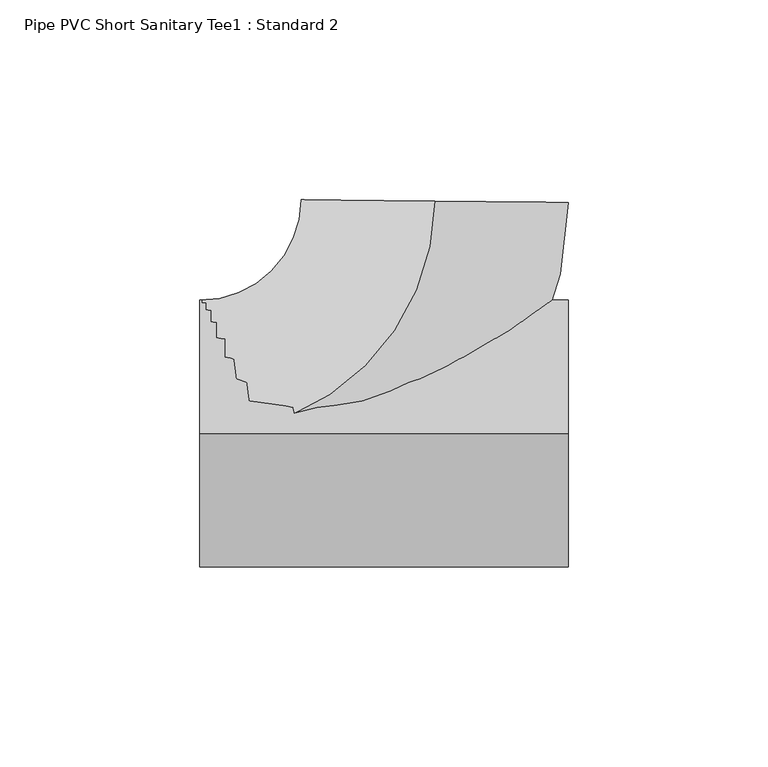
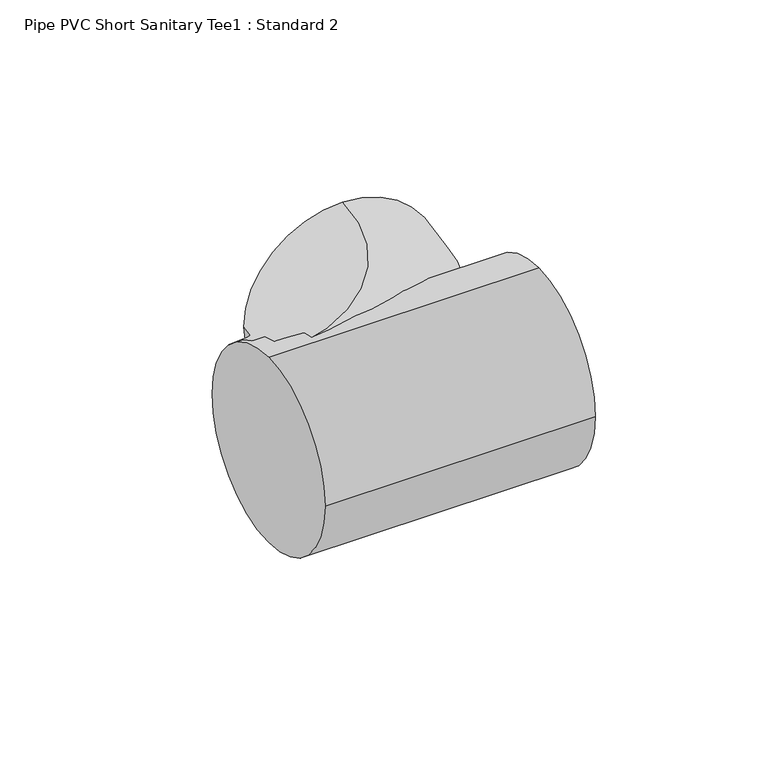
"""IFC4 building model written with IfcOpenShell, lengths in millimetres: pipe fitting geometry, Pipe PVC Short Sanitary Tee1 : Standard 2."""

from ifc_helpers import new_model, si_unit, point, frame, origin, origin_2d, place, context, project, spatial, circle_curve, ellipse_curve, trimmed, segment, composite_curve, outline, extrude, source, transform, mapped, element, save
from ifc_brep_helpers import plane_surface, revolved_surface, advanced_brep


def pipe_pvc_short_sanitary_tee1_standard_2_dea4ea5f(model_context):
    return source(origin(), model_context, "Body", "SolidModel", [
        extrude(outline(composite_curve([segment(trimmed(circle_curve(origin_2d(), 33.3375), [point((0.0, 33.3375))], [point((33.3375, 0.0))], False, "CARTESIAN"), True, "CONTINUOUS"), segment(trimmed(circle_curve(origin_2d(), 33.3375), [point((33.3375, 0.0))], [point((0.0, -33.3375))], False, "CARTESIAN"), True, "CONTINUOUS"), segment(trimmed(circle_curve(origin_2d(), 33.3375), [point((0.0, -33.3375))], [point((-33.3375, 0.0))], False, "CARTESIAN"), True, "CONTINUOUS"), segment(trimmed(circle_curve(origin_2d(), 33.3375), [point((-33.3375, 0.0))], [point((0.0, 33.3375))], False, "CARTESIAN"), True, "CONTINUOUS")], self_intersect=False)), frame((-58.1290126, 0.0, 0.0), z_axis=(1.0, 0.0, 0.0), x_axis=(0.0, 1.0, 0.0)), (0.0, 0.0, 1.0), 92.0718154),
        advanced_brep(
        [(-58.1290126, 0.0, 33.3375), (-58.1290126, 33.3375, 0.0), (-58.1290126, 0.0, -33.3375), (-58.1290126, -33.3375, 0.0), (0.6053028, 58.125861, 33.3375), (33.9409953, 57.7787146, 0.0), (0.6053028, 58.125861, -33.3375), (-32.7303898, 58.4730075, 0.0)],
        [
            (0, 1, circle_curve(frame((-58.1290126, 0.0, 0.0), z_axis=(-1.0, 0.0, 0.0), x_axis=(0.0, 1.0, 0.0)), 33.3375)),
            (1, 2, circle_curve(frame((-58.1290126, 0.0, 0.0), z_axis=(-1.0, 0.0, 0.0), x_axis=(0.0, 1.0, 0.0)), 33.3375)),
            (2, 3, circle_curve(frame((-58.1290126, 0.0, 0.0), z_axis=(-1.0, 0.0, 0.0), x_axis=(0.0, 1.0, 0.0)), 33.3375)),
            (3, 0, circle_curve(frame((-58.1290126, 0.0, 0.0), z_axis=(-1.0, 0.0, 0.0), x_axis=(0.0, 1.0, 0.0)), 33.3375)),
            (4, 5, circle_curve(frame((0.6053028, 58.125861, 0.0), z_axis=(0.010413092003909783, 0.9999457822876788, 0.0), x_axis=(-0.9999457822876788, 0.010413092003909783, 0.0)), 33.3375)),
            (5, 6, circle_curve(frame((0.6053028, 58.125861, 0.0), z_axis=(0.010413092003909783, 0.9999457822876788, 0.0), x_axis=(-0.9999457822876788, 0.010413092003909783, 0.0)), 33.3375)),
            (6, 7, circle_curve(frame((0.6053028, 58.125861, 0.0), z_axis=(0.010413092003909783, 0.9999457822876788, 0.0), x_axis=(-0.9999457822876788, 0.010413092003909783, 0.0)), 33.3375)),
            (7, 4, circle_curve(frame((0.6053028, 58.125861, 0.0), z_axis=(0.010413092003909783, 0.9999457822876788, 0.0), x_axis=(-0.9999457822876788, 0.010413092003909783, 0.0)), 33.3375)),
            (7, 1, circle_curve(frame((-58.1290126, 58.7375, 0.0), z_axis=(0.0, 0.0, -1.0), x_axis=(0.0, -1.0, 0.0)), 25.4)),
            (0, 4, circle_curve(frame((-58.1290126, 58.7375, 33.3375), z_axis=(0.0, 0.0, 1.0), x_axis=(0.0, -1.0, 0.0)), 58.7375)),
            (6, 2, circle_curve(frame((-58.1290126, 58.7375, -33.3375), z_axis=(0.0, 0.0, -1.0), x_axis=(0.0, -1.0, 0.0)), 58.7375)),
            (5, 3, circle_curve(frame((-58.1290126, 58.7375, 0.0), z_axis=(0.0, 0.0, -1.0), x_axis=(0.0, -1.0, 0.0)), 92.075)),
        ],
        [
            plane_surface(frame((-58.1290126, 0.0, 0.0), z_axis=(-1.0, 0.0, 0.0), x_axis=(0.0, 0.0, 1.0))),
            plane_surface(frame((0.6053028, 58.125861, 0.0), z_axis=(0.010413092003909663, 0.9999457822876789, 0.0), x_axis=(0.0, 0.0, 1.0))),
            revolved_surface(trimmed(ellipse_curve(frame((-58.1290126, 0.0, 0.0), z_axis=(-1.0, 0.0, 0.0), x_axis=(0.0, 1.0, 0.0)), 33.3375, 33.3375), [point((-58.1290126, 0.0, 33.3375))], [point((-58.1290126, 33.3375, 0.0))], True, "CARTESIAN"), (-58.1290126, 58.7375, 0.0), (0.0, 0.0, 1.0)),
            revolved_surface(trimmed(ellipse_curve(frame((-58.1290126, 0.0, 0.0), z_axis=(-1.0, 0.0, 0.0), x_axis=(0.0, 1.0, 0.0)), 33.3375, 33.3375), [point((-58.1290126, 33.3375, 0.0))], [point((-58.1290126, 0.0, -33.3375))], True, "CARTESIAN"), (-58.1290126, 58.7375, 0.0), (0.0, 0.0, 1.0)),
            revolved_surface(trimmed(ellipse_curve(frame((-58.1290126, 0.0, 0.0), z_axis=(-1.0, 0.0, 0.0), x_axis=(0.0, 1.0, 0.0)), 33.3375, 33.3375), [point((-58.1290126, 0.0, -33.3375))], [point((-58.1290126, -33.3375, 0.0))], True, "CARTESIAN"), (-58.1290126, 58.7375, 0.0), (0.0, 0.0, 1.0)),
            revolved_surface(trimmed(ellipse_curve(frame((-58.1290126, 0.0, 0.0), z_axis=(-1.0, 0.0, 0.0), x_axis=(0.0, 1.0, 0.0)), 33.3375, 33.3375), [point((-58.1290126, -33.3375, 0.0))], [point((-58.1290126, 0.0, 33.3375))], True, "CARTESIAN"), (-58.1290126, 58.7375, 0.0), (0.0, 0.0, 1.0)),
        ],
        [
            (0, [[1, 2, 3, 4]]),
            (1, [[5, 6, 7, 8]]),
            (2, [[9, -1, 10, -8]]),
            (3, [[11, -2, -9, -7]]),
            (4, [[12, -3, -11, -6]]),
            (5, [[-10, -4, -12, -5]]),
        ],
    ),
        advanced_brep(
        [(-58.1290126, 0.0, 33.3375), (-58.1290126, 33.3375, 0.0), (-58.1290126, 0.0, -33.3375), (-58.1290126, -33.3375, 0.0), (0.6053028, 58.125861, 33.3375), (33.9409953, 57.7787146, 0.0), (0.6053028, 58.125861, -33.3375), (-32.7303898, 58.4730075, 0.0)],
        [
            (0, 1, circle_curve(frame((-58.1290126, 0.0, 0.0), z_axis=(-1.0, 0.0, 0.0), x_axis=(0.0, 1.0, 0.0)), 33.3375)),
            (1, 2, circle_curve(frame((-58.1290126, 0.0, 0.0), z_axis=(-1.0, 0.0, 0.0), x_axis=(0.0, 1.0, 0.0)), 33.3375)),
            (2, 3, circle_curve(frame((-58.1290126, 0.0, 0.0), z_axis=(-1.0, 0.0, 0.0), x_axis=(0.0, 1.0, 0.0)), 33.3375)),
            (3, 0, circle_curve(frame((-58.1290126, 0.0, 0.0), z_axis=(-1.0, 0.0, 0.0), x_axis=(0.0, 1.0, 0.0)), 33.3375)),
            (4, 5, circle_curve(frame((0.6053028, 58.125861, 0.0), z_axis=(0.010413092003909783, 0.9999457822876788, 0.0), x_axis=(-0.9999457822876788, 0.010413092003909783, 0.0)), 33.3375)),
            (5, 6, circle_curve(frame((0.6053028, 58.125861, 0.0), z_axis=(0.010413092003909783, 0.9999457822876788, 0.0), x_axis=(-0.9999457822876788, 0.010413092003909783, 0.0)), 33.3375)),
            (6, 7, circle_curve(frame((0.6053028, 58.125861, 0.0), z_axis=(0.010413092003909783, 0.9999457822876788, 0.0), x_axis=(-0.9999457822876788, 0.010413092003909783, 0.0)), 33.3375)),
            (7, 4, circle_curve(frame((0.6053028, 58.125861, 0.0), z_axis=(0.010413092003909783, 0.9999457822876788, 0.0), x_axis=(-0.9999457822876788, 0.010413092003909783, 0.0)), 33.3375)),
            (7, 1, circle_curve(frame((-58.1290126, 58.7375, 0.0), z_axis=(0.0, 0.0, -1.0), x_axis=(0.0, -1.0, 0.0)), 25.4)),
            (0, 4, circle_curve(frame((-58.1290126, 58.7375, 33.3375), z_axis=(0.0, 0.0, 1.0), x_axis=(0.0, -1.0, 0.0)), 58.7375)),
            (6, 2, circle_curve(frame((-58.1290126, 58.7375, -33.3375), z_axis=(0.0, 0.0, -1.0), x_axis=(0.0, -1.0, 0.0)), 58.7375)),
            (5, 3, circle_curve(frame((-58.1290126, 58.7375, 0.0), z_axis=(0.0, 0.0, -1.0), x_axis=(0.0, -1.0, 0.0)), 92.075)),
        ],
        [
            plane_surface(frame((-58.1290126, 0.0, 0.0), z_axis=(-1.0, 0.0, 0.0), x_axis=(0.0, 0.0, 1.0))),
            plane_surface(frame((0.6053028, 58.125861, 0.0), z_axis=(0.010413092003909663, 0.9999457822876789, 0.0), x_axis=(0.0, 0.0, 1.0))),
            revolved_surface(trimmed(ellipse_curve(frame((-58.1290126, 0.0, 0.0), z_axis=(-1.0, 0.0, 0.0), x_axis=(0.0, 1.0, 0.0)), 33.3375, 33.3375), [point((-58.1290126, 0.0, 33.3375))], [point((-58.1290126, 33.3375, 0.0))], True, "CARTESIAN"), (-58.1290126, 58.7375, 0.0), (0.0, 0.0, 1.0)),
            revolved_surface(trimmed(ellipse_curve(frame((-58.1290126, 0.0, 0.0), z_axis=(-1.0, 0.0, 0.0), x_axis=(0.0, 1.0, 0.0)), 33.3375, 33.3375), [point((-58.1290126, 33.3375, 0.0))], [point((-58.1290126, 0.0, -33.3375))], True, "CARTESIAN"), (-58.1290126, 58.7375, 0.0), (0.0, 0.0, 1.0)),
            revolved_surface(trimmed(ellipse_curve(frame((-58.1290126, 0.0, 0.0), z_axis=(-1.0, 0.0, 0.0), x_axis=(0.0, 1.0, 0.0)), 33.3375, 33.3375), [point((-58.1290126, 0.0, -33.3375))], [point((-58.1290126, -33.3375, 0.0))], True, "CARTESIAN"), (-58.1290126, 58.7375, 0.0), (0.0, 0.0, 1.0)),
            revolved_surface(trimmed(ellipse_curve(frame((-58.1290126, 0.0, 0.0), z_axis=(-1.0, 0.0, 0.0), x_axis=(0.0, 1.0, 0.0)), 33.3375, 33.3375), [point((-58.1290126, -33.3375, 0.0))], [point((-58.1290126, 0.0, 33.3375))], True, "CARTESIAN"), (-58.1290126, 58.7375, 0.0), (0.0, 0.0, 1.0)),
        ],
        [
            (0, [[1, 2, 3, 4]]),
            (1, [[5, 6, 7, 8]]),
            (2, [[9, -1, 10, -8]]),
            (3, [[11, -2, -9, -7]]),
            (4, [[12, -3, -11, -6]]),
            (5, [[-10, -4, -12, -5]]),
        ],
    ),
        extrude(outline(composite_curve([segment(trimmed(circle_curve(origin_2d(), 33.3375), [point((0.0, 33.3375))], [point((33.3375, 0.0))], False, "CARTESIAN"), True, "CONTINUOUS"), segment(trimmed(circle_curve(origin_2d(), 33.3375), [point((33.3375, 0.0))], [point((0.0, -33.3375))], False, "CARTESIAN"), True, "CONTINUOUS"), segment(trimmed(circle_curve(origin_2d(), 33.3375), [point((0.0, -33.3375))], [point((-33.3375, 0.0))], False, "CARTESIAN"), True, "CONTINUOUS"), segment(trimmed(circle_curve(origin_2d(), 33.3375), [point((-33.3375, 0.0))], [point((0.0, 33.3375))], False, "CARTESIAN"), True, "CONTINUOUS")], self_intersect=False)), frame((-58.1290126, 0.0, 0.0), z_axis=(1.0, 0.0, 0.0), x_axis=(0.0, 1.0, 0.0)), (0.0, 0.0, 1.0), 92.0718154),
    ])


if __name__ == "__main__":
    model = new_model("IFC4")
    model_context = context("Model", 3, world=origin())
    ifc_project = project(units=[si_unit("LENGTHUNIT", "METRE", prefix="MILLI")], contexts=[model_context])
    site = spatial("IfcSite", under=ifc_project)
    building = spatial("IfcBuilding", under=site)
    placement = place(None, origin())
    pipe_pvc_short_sanitary_tee1_standard_2_shape = pipe_pvc_short_sanitary_tee1_standard_2_dea4ea5f(model_context)
    element("IfcPipeFitting", 1, ObjectType="Pipe PVC Short Sanitary Tee1 : Standard 2", at=placement, inside=building, context=model_context, shape_type="MappedRepresentation", body=[
        mapped(pipe_pvc_short_sanitary_tee1_standard_2_shape, transform((0.0, 0.0, 0.0), x_axis=(1.0, 0.0, 0.0), y_axis=(0.0, 1.0, 0.0), z_axis=(0.0, 0.0, 1.0))),
    ])
    save(model, "model.ifc")
